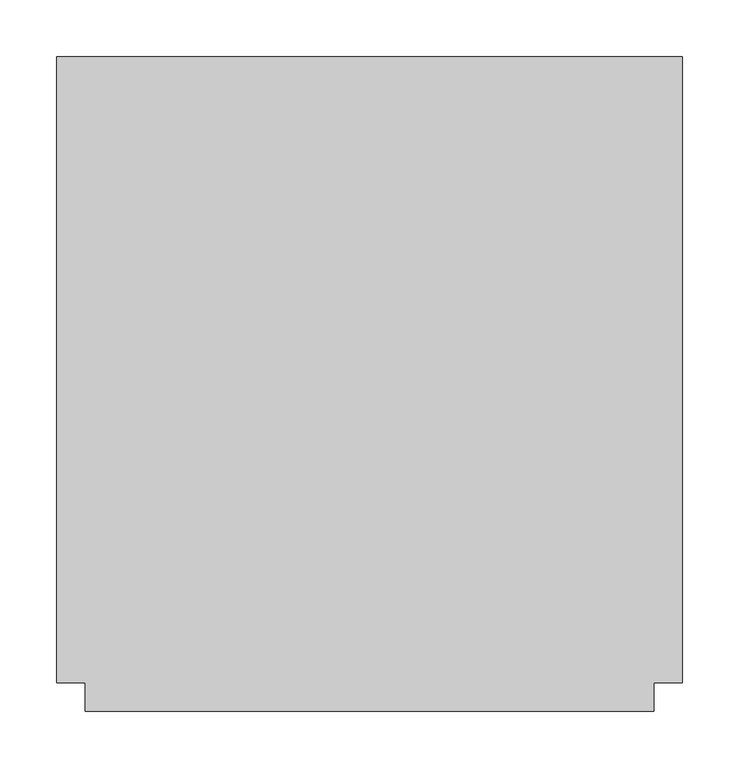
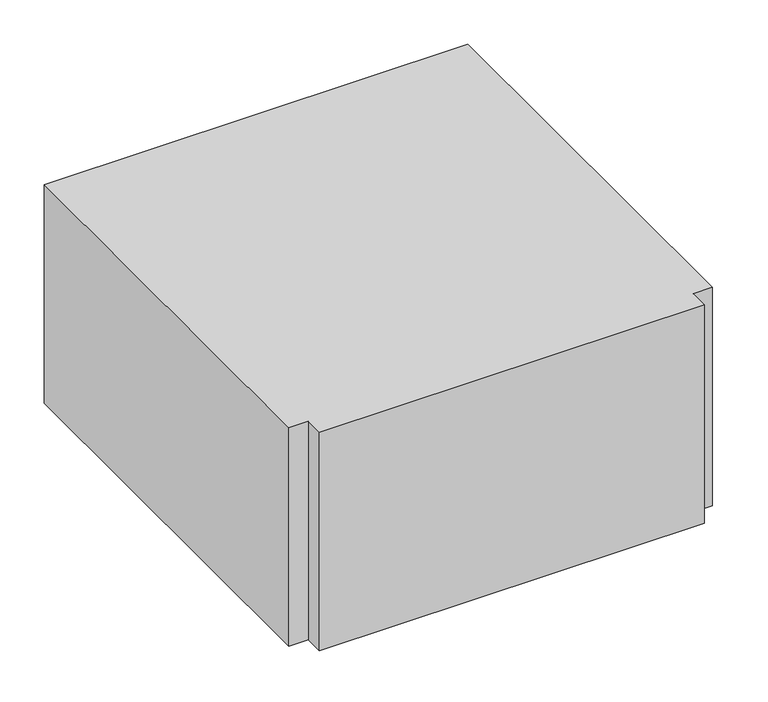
"""IFC4 building model written with IfcOpenShell, lengths in millimetres: duct fitting geometry, M_Te rectangular : Estándar."""

from ifc_helpers import new_model, si_unit, frame, origin, place, context, project, spatial, polyline, outline, extrude, source, transform, mapped, element, save


def duct_fitting_e4c7c3c5(model_context):
    return source(origin(), model_context, "Body", "SweptSolid", [
        extrude(outline(polyline([(-275.0, -275.0), (-275.0, 275.0), (275.0, 275.0), (275.0, -275.0), (250.0, -275.0), (250.0, -300.0), (-250.0, -300.0), (-250.0, -275.0), (-275.0, -275.0)])), frame((0.0, 0.0, -150.0), z_axis=(0.0, 0.0, 1.0), x_axis=(1.0, 0.0, 0.0)), (0.0, 0.0, 1.0), 300.0),
    ])


if __name__ == "__main__":
    model = new_model("IFC4")
    model_context = context("Model", 3, world=origin())
    ifc_project = project(units=[si_unit("LENGTHUNIT", "METRE", prefix="MILLI")], contexts=[model_context])
    site = spatial("IfcSite", under=ifc_project)
    building = spatial("IfcBuilding", under=site)
    placement = place(None, origin())
    duct_fitting_shape = duct_fitting_e4c7c3c5(model_context)
    element("IfcDuctFitting", 1, ObjectType="M_Te rectangular : Estándar", at=placement, inside=building, context=model_context, shape_type="MappedRepresentation", body=[
        mapped(duct_fitting_shape, transform((0.0, 0.0, 0.0), x_axis=(1.0, 0.0, 0.0), y_axis=(0.0, 1.0, 0.0), z_axis=(0.0, 0.0, 1.0))),
    ])
    save(model, "model.ifc")
